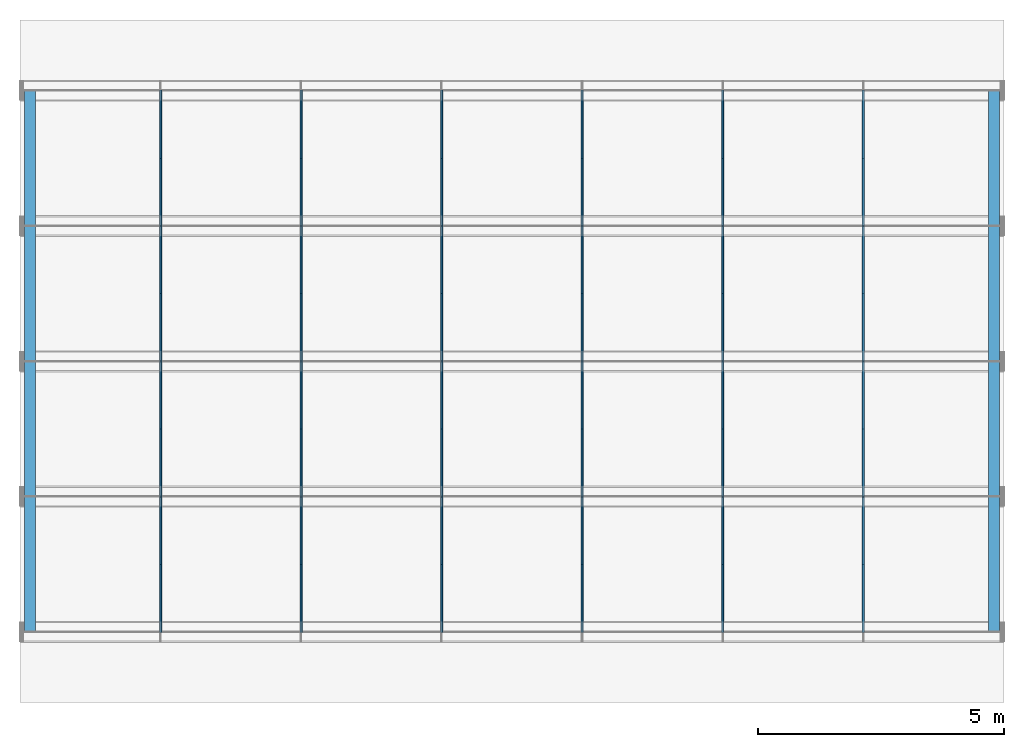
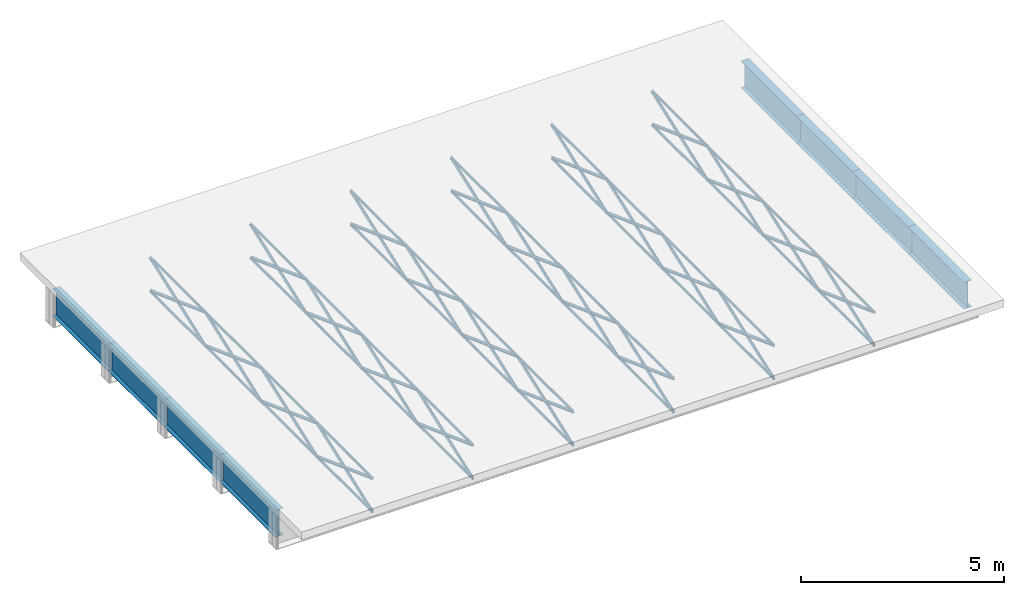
# One storey, part 1 of 12: 104 members.
"""IFC4 building model written with IfcOpenShell, lengths in metres."""

import ifcopenshell
import ifcopenshell.guid

model = None  # the IFC model being written
_history = None  # IfcOwnerHistory: only IFC2X3 demands one
_inside = {}  # id of a spatial element -> (the spatial element, [elements in it])
_under = {}  # id of a project, library or spatial element -> (it, [spatial elements below it])
_declared = {}  # id of a project -> (the project, [libraries it declares])
_typed = {}  # id of a type object -> (the type object, [elements of that type])
_made_of = {}  # id of a material, layer set ... -> (it, [elements and type objects made of it])


def new_model(schema):
    """Start an empty IFC model of exactly this schema.

    Asked for "IFC4X3", IfcOpenShell would pick the latest addendum, in which some entities
    have other attributes; the version numbers below select the first issue.
    IFC2X3 requires an IfcOwnerHistory on every rooted entity: one is made here for all.
    """
    global model, _history
    if schema == "IFC4X3":
        model = ifcopenshell.file(schema_version=(4, 3, 0, 0))
    else:
        model = ifcopenshell.file(schema=schema)
    _inside.clear()
    _under.clear()
    _declared.clear()
    _typed.clear()
    _made_of.clear()
    _history = None
    if model.schema == "IFC2X3":
        org = make("IfcOrganization", Name="unknown")
        user = make(
            "IfcPersonAndOrganization",
            ThePerson=make("IfcPerson", FamilyName="unknown"),
            TheOrganization=org,
        )
        app = make(
            "IfcApplication",
            ApplicationDeveloper=org,
            Version="unknown",
            ApplicationFullName="unknown",
            ApplicationIdentifier="unknown",
        )
        _history = make(
            "IfcOwnerHistory",
            OwningUser=user,
            OwningApplication=app,
            ChangeAction="ADDED",
            CreationDate=0,
        )
    return model


def make(cls, **values):
    """One entity of the class cls with the attributes given. An attribute that is None is left unset."""
    return model.create_entity(
        cls, **{name: value for name, value in values.items() if value is not None}
    )


def rooted(cls, **values):
    """An entity with a GlobalId (a new one), such as an element, a storey or a relation."""
    return make(cls, GlobalId=ifcopenshell.guid.new(), OwnerHistory=_history, **values)


def si_unit(unit_type, name, prefix=None):
    """IfcSIUnit, for example si_unit("LENGTHUNIT", "METRE", prefix="MILLI")."""
    return make("IfcSIUnit", UnitType=unit_type, Prefix=prefix, Name=name)


def assignment(units):
    """IfcUnitAssignment: the units of a project."""
    return None if units is None else make("IfcUnitAssignment", Units=units)


def point(xyz):
    """IfcCartesianPoint."""
    return None if xyz is None else make("IfcCartesianPoint", Coordinates=xyz)


def direction(xyz):
    """IfcDirection."""
    return None if xyz is None else make("IfcDirection", DirectionRatios=xyz)


def frame(location, z_axis=None, x_axis=None):
    """IfcAxis2Placement3D, a coordinate frame: its origin and axes. An axis left out is left unset."""
    return make(
        "IfcAxis2Placement3D",
        Location=point(location),
        Axis=direction(z_axis),
        RefDirection=direction(x_axis),
    )


def frame_2d(location, x_axis=None):
    """IfcAxis2Placement2D, a coordinate frame in the plane: its origin and x axis."""
    return make(
        "IfcAxis2Placement2D", Location=point(location), RefDirection=direction(x_axis)
    )


def origin():
    """The frame at (0, 0, 0) with its axes left unset."""
    return frame((0.0, 0.0, 0.0))


def origin_with_axes():
    """The frame at (0, 0, 0) with the z axis (0, 0, 1) and the x axis (1, 0, 0) written out."""
    return frame((0.0, 0.0, 0.0), z_axis=(0.0, 0.0, 1.0), x_axis=(1.0, 0.0, 0.0))


def origin_2d_with_axis():
    """The frame at (0, 0) in the plane with the x axis (1, 0) written out."""
    return frame_2d((0.0, 0.0), x_axis=(1.0, 0.0))


def place(relative_to, where):
    """IfcLocalPlacement: puts the frame where relative to a parent placement (None: the world)."""
    return make(
        "IfcLocalPlacement", PlacementRelTo=relative_to, RelativePlacement=where
    )


def context(
    kind, dimensions, precision=None, world=None, true_north=None, identifier=None
):
    """IfcGeometricRepresentationContext, for example the 3D "Model" context."""
    return make(
        "IfcGeometricRepresentationContext",
        ContextIdentifier=identifier,
        ContextType=kind,
        CoordinateSpaceDimension=dimensions,
        Precision=precision,
        WorldCoordinateSystem=world,
        TrueNorth=true_north,
    )


def subcontext(parent, identifier, kind, view, scale=None):
    """IfcGeometricRepresentationSubContext, for example "Body" below "Model"."""
    return make(
        "IfcGeometricRepresentationSubContext",
        ContextIdentifier=identifier,
        ContextType=kind,
        ParentContext=parent,
        TargetScale=scale,
        TargetView=view,
    )


def project(units=None, contexts=None):
    """IfcProject with its units and contexts."""
    return rooted(
        "IfcProject",
        Name="project",
        RepresentationContexts=contexts,
        UnitsInContext=assignment(units),
    )


def spatial(cls, under=None, at=None, **own):
    """A site, building, storey or space (cls), placed at a placement, below another one or the project."""
    s = rooted(cls, ObjectPlacement=at, **own)
    if under is not None:
        _under.setdefault(under.id(), (under, []))[1].append(s)
    return s


def profile(cls, at=None, kind="AREA", **sizes):
    """A parametric profile (cls). Its sizes go by their IFC names, for example OverallWidth=200.0."""
    return make(cls, ProfileType=kind, Position=at, **sizes)


def i_section(**sizes):
    """IfcIShapeProfileDef."""
    return profile("IfcIShapeProfileDef", **sizes)


def l_section(**sizes):
    """IfcLShapeProfileDef."""
    return profile("IfcLShapeProfileDef", **sizes)


def extrude(swept, where, along, depth):
    """IfcExtrudedAreaSolid: the profile swept, set in the frame where, extruded along a direction by depth."""
    return make(
        "IfcExtrudedAreaSolid",
        SweptArea=swept,
        Position=where,
        ExtrudedDirection=direction(along),
        Depth=depth,
    )


def shape(context_of_items, identifier, shape_type, items):
    """IfcShapeRepresentation: the items that make up one representation, for example the "Body"."""
    return make(
        "IfcShapeRepresentation",
        ContextOfItems=context_of_items,
        RepresentationIdentifier=identifier,
        RepresentationType=shape_type,
        Items=items,
    )


def made_of(thing, what):
    """Note that an element or type object is made of a material, layer set ...; save() writes the relation."""
    if what is not None:
        _made_of.setdefault(what.id(), (what, []))[1].append(thing)
    return thing


def element(
    cls,
    number,
    at=None,
    inside=None,
    cuts=None,
    type_object=None,
    material=None,
    context=None,
    identifier="Body",
    shape_type=None,
    held_by="IfcProductDefinitionShape",
    body=None,
    shapes=None,
    **own,
):
    """One element of the class cls, such as IfcWall. Its Tag is "e" and its number.

    at: its placement. inside: the storey or other place that contains it. cuts: it is an
    opening in that element (IfcRelVoidsElement). A single representation is given by context,
    identifier, shape_type and body (its items); several are given by shapes. held_by: the class
    of the entity that holds the representations. save() writes the other relations.
    """
    e = rooted(cls, Tag="e%d" % number, ObjectPlacement=at, **own)
    if body is not None:
        shapes = [shape(context, identifier, shape_type, body)]
    if shapes is not None:
        e.Representation = make(held_by, Representations=shapes)
    if inside is not None:
        _inside.setdefault(inside.id(), (inside, []))[1].append(e)
    if cuts is not None:
        rooted(
            "IfcRelVoidsElement", RelatingBuildingElement=cuts, RelatedOpeningElement=e
        )
    if type_object is not None:
        _typed.setdefault(type_object.id(), (type_object, []))[1].append(e)
    return made_of(e, material)


def aggregate(whole, parts):
    """IfcRelAggregates: a whole, such as a stair, and the parts it consists of."""
    return rooted("IfcRelAggregates", RelatingObject=whole, RelatedObjects=parts)


def save(model, path):
    """Write the relations noted so far, then the file.

    IfcRelAggregates (storeys below a building ...), IfcRelContainedInSpatialStructure (elements
    in a storey), IfcRelDefinesByType, IfcRelAssociatesMaterial and IfcRelDeclares: one each for
    every whole, place, type object, material and project.
    """
    for whole, parts in _under.values():
        aggregate(whole, parts)
    for where, things in _inside.values():
        rooted(
            "IfcRelContainedInSpatialStructure",
            RelatedElements=things,
            RelatingStructure=where,
        )
    for kind, things in _typed.values():
        rooted("IfcRelDefinesByType", RelatedObjects=things, RelatingType=kind)
    for what, things in _made_of.values():
        rooted("IfcRelAssociatesMaterial", RelatedObjects=things, RelatingMaterial=what)
    for by, libraries in _declared.values():
        rooted("IfcRelDeclares", RelatingContext=by, RelatedDefinitions=libraries)
    model.write(path)


model = new_model("IFC4")

# Units and contexts
model_context = context("Model", 3, precision=1e-05, world=origin())
body_context = subcontext(model_context, "Body", "Model", "MODEL_VIEW")
ifc_project = project(units=[si_unit("LENGTHUNIT", "METRE"), si_unit("AREAUNIT", "SQUARE_METRE"), si_unit("VOLUMEUNIT", "CUBIC_METRE"), si_unit("PLANEANGLEUNIT", "RADIAN")], contexts=[model_context])

# Site, building, storey
site_placement = place(None, origin_with_axes())
site = spatial("IfcSite", under=ifc_project, at=site_placement, Name="Default Site")
building_placement = place(site_placement, origin_with_axes())
building = spatial("IfcBuilding", under=site, at=building_placement, Name="Bridge Structure")
storey_placement = place(building_placement, origin_with_axes())
storey = spatial("IfcBuildingStorey", under=building, at=storey_placement, Name="Superstructure")

# Members
for number, where, z_axis, x_axis, name in (
    (1, (0.2, -5.5, 0.1015), (0.0, 1.0, 0.0), (-1.0, 0.0, 0.0), "End Diaphragm"),
    (2, (0.2, -2.75, 0.1015), (0.0, 1.0, 0.0), (-1.0, 0.0, 0.0), "End Diaphragm"),
    (3, (0.2, 0.0, 0.1015), (0.0, 1.0, 0.0), (-1.0, 0.0, 0.0), "End Diaphragm"),
    (4, (0.2, 2.75, 0.1015), (0.0, 1.0, 0.0), (-1.0, 0.0, 0.0), "End Diaphragm"),
):
    element("IfcMember", number, at=place(storey_placement, frame(where, z_axis=z_axis, x_axis=x_axis)), inside=storey, Name=name, context=body_context, shape_type="SweptSolid", body=[
        extrude(i_section(OverallWidth=0.225, OverallDepth=0.811, WebThickness=0.01, FlangeThickness=0.012, at=origin_2d_with_axis()), origin_with_axes(), (0.0, 0.0, 1.0), 2.75),
    ])
for number, where, z_axis, x_axis, name in (
    (5, (2.857142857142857, -5.5, 0.507), (0.0, 0.9382498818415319, -0.34595832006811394), (-1.0, 0.0, 0.0), "Diagonal Brace"),
    (6, (2.857142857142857, -5.5, -0.507), (0.0, 0.9382498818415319, 0.34595832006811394), (-1.0, 0.0, 0.0), "Diagonal Brace"),
):
    element("IfcMember", number, at=place(storey_placement, frame(where, z_axis=z_axis, x_axis=x_axis)), inside=storey, Name=name, context=body_context, shape_type="SweptSolid", body=[
        extrude(l_section(Depth=0.076, Width=0.05, Thickness=0.008, at=origin_2d_with_axis()), origin_with_axes(), (0.0, 0.0, 1.0), 2.93098891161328),
    ])
for number, where, z_axis, x_axis, name in (
    (7, (2.857142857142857, -5.5, -0.507), (0.0, 1.0, 0.0), (-1.0, 0.0, 0.0), "Bottom Chord"),
    (8, (2.857142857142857, -5.5, 0.507), (0.0, 1.0, 0.0), (-1.0, 0.0, 0.0), "Top Chord"),
):
    element("IfcMember", number, at=place(storey_placement, frame(where, z_axis=z_axis, x_axis=x_axis)), inside=storey, Name=name, context=body_context, shape_type="SweptSolid", body=[
        extrude(l_section(Depth=0.065, Width=0.04, Thickness=0.008, at=origin_2d_with_axis()), origin_with_axes(), (0.0, 0.0, 1.0), 2.75),
    ])
for number, where, z_axis, x_axis, name in (
    (9, (2.857142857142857, -2.75, 0.507), (0.0, 0.9382498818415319, -0.34595832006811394), (-1.0, 0.0, 0.0), "Diagonal Brace"),
    (10, (2.857142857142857, -2.75, -0.507), (0.0, 0.9382498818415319, 0.34595832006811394), (-1.0, 0.0, 0.0), "Diagonal Brace"),
):
    element("IfcMember", number, at=place(storey_placement, frame(where, z_axis=z_axis, x_axis=x_axis)), inside=storey, Name=name, context=body_context, shape_type="SweptSolid", body=[
        extrude(l_section(Depth=0.076, Width=0.05, Thickness=0.008, at=origin_2d_with_axis()), origin_with_axes(), (0.0, 0.0, 1.0), 2.93098891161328),
    ])
for number, where, z_axis, x_axis, name in (
    (11, (2.857142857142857, -2.75, -0.507), (0.0, 1.0, 0.0), (-1.0, 0.0, 0.0), "Bottom Chord"),
    (12, (2.857142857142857, -2.75, 0.507), (0.0, 1.0, 0.0), (-1.0, 0.0, 0.0), "Top Chord"),
):
    element("IfcMember", number, at=place(storey_placement, frame(where, z_axis=z_axis, x_axis=x_axis)), inside=storey, Name=name, context=body_context, shape_type="SweptSolid", body=[
        extrude(l_section(Depth=0.065, Width=0.04, Thickness=0.008, at=origin_2d_with_axis()), origin_with_axes(), (0.0, 0.0, 1.0), 2.75),
    ])
for number, where, z_axis, x_axis, name in (
    (13, (2.857142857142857, 0.0, 0.507), (0.0, 0.9382498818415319, -0.34595832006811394), (-1.0, 0.0, 0.0), "Diagonal Brace"),
    (14, (2.857142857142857, 0.0, -0.507), (0.0, 0.9382498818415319, 0.34595832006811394), (-1.0, 0.0, 0.0), "Diagonal Brace"),
):
    element("IfcMember", number, at=place(storey_placement, frame(where, z_axis=z_axis, x_axis=x_axis)), inside=storey, Name=name, context=body_context, shape_type="SweptSolid", body=[
        extrude(l_section(Depth=0.076, Width=0.05, Thickness=0.008, at=origin_2d_with_axis()), origin_with_axes(), (0.0, 0.0, 1.0), 2.93098891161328),
    ])
for number, where, z_axis, x_axis, name in (
    (15, (2.857142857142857, 0.0, -0.507), (0.0, 1.0, 0.0), (-1.0, 0.0, 0.0), "Bottom Chord"),
    (16, (2.857142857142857, 0.0, 0.507), (0.0, 1.0, 0.0), (-1.0, 0.0, 0.0), "Top Chord"),
):
    element("IfcMember", number, at=place(storey_placement, frame(where, z_axis=z_axis, x_axis=x_axis)), inside=storey, Name=name, context=body_context, shape_type="SweptSolid", body=[
        extrude(l_section(Depth=0.065, Width=0.04, Thickness=0.008, at=origin_2d_with_axis()), origin_with_axes(), (0.0, 0.0, 1.0), 2.75),
    ])
for number, where, z_axis, x_axis, name in (
    (17, (2.857142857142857, 2.75, 0.507), (0.0, 0.9382498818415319, -0.34595832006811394), (-1.0, 0.0, 0.0), "Diagonal Brace"),
    (18, (2.857142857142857, 2.75, -0.507), (0.0, 0.9382498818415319, 0.34595832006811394), (-1.0, 0.0, 0.0), "Diagonal Brace"),
):
    element("IfcMember", number, at=place(storey_placement, frame(where, z_axis=z_axis, x_axis=x_axis)), inside=storey, Name=name, context=body_context, shape_type="SweptSolid", body=[
        extrude(l_section(Depth=0.076, Width=0.05, Thickness=0.008, at=origin_2d_with_axis()), origin_with_axes(), (0.0, 0.0, 1.0), 2.93098891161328),
    ])
for number, where, z_axis, x_axis, name in (
    (19, (2.857142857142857, 2.75, -0.507), (0.0, 1.0, 0.0), (-1.0, 0.0, 0.0), "Bottom Chord"),
    (20, (2.857142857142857, 2.75, 0.507), (0.0, 1.0, 0.0), (-1.0, 0.0, 0.0), "Top Chord"),
):
    element("IfcMember", number, at=place(storey_placement, frame(where, z_axis=z_axis, x_axis=x_axis)), inside=storey, Name=name, context=body_context, shape_type="SweptSolid", body=[
        extrude(l_section(Depth=0.065, Width=0.04, Thickness=0.008, at=origin_2d_with_axis()), origin_with_axes(), (0.0, 0.0, 1.0), 2.75),
    ])
for number, where, z_axis, x_axis, name in (
    (21, (5.714285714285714, -5.5, 0.507), (0.0, 0.9382498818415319, -0.34595832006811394), (-1.0, 0.0, 0.0), "Diagonal Brace"),
    (22, (5.714285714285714, -5.5, -0.507), (0.0, 0.9382498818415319, 0.34595832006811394), (-1.0, 0.0, 0.0), "Diagonal Brace"),
):
    element("IfcMember", number, at=place(storey_placement, frame(where, z_axis=z_axis, x_axis=x_axis)), inside=storey, Name=name, context=body_context, shape_type="SweptSolid", body=[
        extrude(l_section(Depth=0.076, Width=0.05, Thickness=0.008, at=origin_2d_with_axis()), origin_with_axes(), (0.0, 0.0, 1.0), 2.93098891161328),
    ])
for number, where, z_axis, x_axis, name in (
    (23, (5.714285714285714, -5.5, -0.507), (0.0, 1.0, 0.0), (-1.0, 0.0, 0.0), "Bottom Chord"),
    (24, (5.714285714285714, -5.5, 0.507), (0.0, 1.0, 0.0), (-1.0, 0.0, 0.0), "Top Chord"),
):
    element("IfcMember", number, at=place(storey_placement, frame(where, z_axis=z_axis, x_axis=x_axis)), inside=storey, Name=name, context=body_context, shape_type="SweptSolid", body=[
        extrude(l_section(Depth=0.065, Width=0.04, Thickness=0.008, at=origin_2d_with_axis()), origin_with_axes(), (0.0, 0.0, 1.0), 2.75),
    ])
for number, where, z_axis, x_axis, name in (
    (25, (5.714285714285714, -2.75, 0.507), (0.0, 0.9382498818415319, -0.34595832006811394), (-1.0, 0.0, 0.0), "Diagonal Brace"),
    (26, (5.714285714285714, -2.75, -0.507), (0.0, 0.9382498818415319, 0.34595832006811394), (-1.0, 0.0, 0.0), "Diagonal Brace"),
):
    element("IfcMember", number, at=place(storey_placement, frame(where, z_axis=z_axis, x_axis=x_axis)), inside=storey, Name=name, context=body_context, shape_type="SweptSolid", body=[
        extrude(l_section(Depth=0.076, Width=0.05, Thickness=0.008, at=origin_2d_with_axis()), origin_with_axes(), (0.0, 0.0, 1.0), 2.93098891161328),
    ])
for number, where, z_axis, x_axis, name in (
    (27, (5.714285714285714, -2.75, -0.507), (0.0, 1.0, 0.0), (-1.0, 0.0, 0.0), "Bottom Chord"),
    (28, (5.714285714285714, -2.75, 0.507), (0.0, 1.0, 0.0), (-1.0, 0.0, 0.0), "Top Chord"),
):
    element("IfcMember", number, at=place(storey_placement, frame(where, z_axis=z_axis, x_axis=x_axis)), inside=storey, Name=name, context=body_context, shape_type="SweptSolid", body=[
        extrude(l_section(Depth=0.065, Width=0.04, Thickness=0.008, at=origin_2d_with_axis()), origin_with_axes(), (0.0, 0.0, 1.0), 2.75),
    ])
for number, where, z_axis, x_axis, name in (
    (29, (5.714285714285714, 0.0, 0.507), (0.0, 0.9382498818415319, -0.34595832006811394), (-1.0, 0.0, 0.0), "Diagonal Brace"),
    (30, (5.714285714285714, 0.0, -0.507), (0.0, 0.9382498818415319, 0.34595832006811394), (-1.0, 0.0, 0.0), "Diagonal Brace"),
):
    element("IfcMember", number, at=place(storey_placement, frame(where, z_axis=z_axis, x_axis=x_axis)), inside=storey, Name=name, context=body_context, shape_type="SweptSolid", body=[
        extrude(l_section(Depth=0.076, Width=0.05, Thickness=0.008, at=origin_2d_with_axis()), origin_with_axes(), (0.0, 0.0, 1.0), 2.93098891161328),
    ])
for number, where, z_axis, x_axis, name in (
    (31, (5.714285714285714, 0.0, -0.507), (0.0, 1.0, 0.0), (-1.0, 0.0, 0.0), "Bottom Chord"),
    (32, (5.714285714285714, 0.0, 0.507), (0.0, 1.0, 0.0), (-1.0, 0.0, 0.0), "Top Chord"),
):
    element("IfcMember", number, at=place(storey_placement, frame(where, z_axis=z_axis, x_axis=x_axis)), inside=storey, Name=name, context=body_context, shape_type="SweptSolid", body=[
        extrude(l_section(Depth=0.065, Width=0.04, Thickness=0.008, at=origin_2d_with_axis()), origin_with_axes(), (0.0, 0.0, 1.0), 2.75),
    ])
for number, where, z_axis, x_axis, name in (
    (33, (5.714285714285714, 2.75, 0.507), (0.0, 0.9382498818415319, -0.34595832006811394), (-1.0, 0.0, 0.0), "Diagonal Brace"),
    (34, (5.714285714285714, 2.75, -0.507), (0.0, 0.9382498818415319, 0.34595832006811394), (-1.0, 0.0, 0.0), "Diagonal Brace"),
):
    element("IfcMember", number, at=place(storey_placement, frame(where, z_axis=z_axis, x_axis=x_axis)), inside=storey, Name=name, context=body_context, shape_type="SweptSolid", body=[
        extrude(l_section(Depth=0.076, Width=0.05, Thickness=0.008, at=origin_2d_with_axis()), origin_with_axes(), (0.0, 0.0, 1.0), 2.93098891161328),
    ])
for number, where, z_axis, x_axis, name in (
    (35, (5.714285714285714, 2.75, -0.507), (0.0, 1.0, 0.0), (-1.0, 0.0, 0.0), "Bottom Chord"),
    (36, (5.714285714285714, 2.75, 0.507), (0.0, 1.0, 0.0), (-1.0, 0.0, 0.0), "Top Chord"),
):
    element("IfcMember", number, at=place(storey_placement, frame(where, z_axis=z_axis, x_axis=x_axis)), inside=storey, Name=name, context=body_context, shape_type="SweptSolid", body=[
        extrude(l_section(Depth=0.065, Width=0.04, Thickness=0.008, at=origin_2d_with_axis()), origin_with_axes(), (0.0, 0.0, 1.0), 2.75),
    ])
for number, where, z_axis, x_axis, name in (
    (37, (8.571428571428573, -5.5, 0.507), (0.0, 0.9382498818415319, -0.34595832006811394), (-1.0, 0.0, 0.0), "Diagonal Brace"),
    (38, (8.571428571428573, -5.5, -0.507), (0.0, 0.9382498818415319, 0.34595832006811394), (-1.0, 0.0, 0.0), "Diagonal Brace"),
):
    element("IfcMember", number, at=place(storey_placement, frame(where, z_axis=z_axis, x_axis=x_axis)), inside=storey, Name=name, context=body_context, shape_type="SweptSolid", body=[
        extrude(l_section(Depth=0.076, Width=0.05, Thickness=0.008, at=origin_2d_with_axis()), origin_with_axes(), (0.0, 0.0, 1.0), 2.93098891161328),
    ])
for number, where, z_axis, x_axis, name in (
    (39, (8.571428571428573, -5.5, -0.507), (0.0, 1.0, 0.0), (-1.0, 0.0, 0.0), "Bottom Chord"),
    (40, (8.571428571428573, -5.5, 0.507), (0.0, 1.0, 0.0), (-1.0, 0.0, 0.0), "Top Chord"),
):
    element("IfcMember", number, at=place(storey_placement, frame(where, z_axis=z_axis, x_axis=x_axis)), inside=storey, Name=name, context=body_context, shape_type="SweptSolid", body=[
        extrude(l_section(Depth=0.065, Width=0.04, Thickness=0.008, at=origin_2d_with_axis()), origin_with_axes(), (0.0, 0.0, 1.0), 2.75),
    ])
for number, where, z_axis, x_axis, name in (
    (41, (8.571428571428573, -2.75, 0.507), (0.0, 0.9382498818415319, -0.34595832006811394), (-1.0, 0.0, 0.0), "Diagonal Brace"),
    (42, (8.571428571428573, -2.75, -0.507), (0.0, 0.9382498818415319, 0.34595832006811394), (-1.0, 0.0, 0.0), "Diagonal Brace"),
):
    element("IfcMember", number, at=place(storey_placement, frame(where, z_axis=z_axis, x_axis=x_axis)), inside=storey, Name=name, context=body_context, shape_type="SweptSolid", body=[
        extrude(l_section(Depth=0.076, Width=0.05, Thickness=0.008, at=origin_2d_with_axis()), origin_with_axes(), (0.0, 0.0, 1.0), 2.93098891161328),
    ])
for number, where, z_axis, x_axis, name in (
    (43, (8.571428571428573, -2.75, -0.507), (0.0, 1.0, 0.0), (-1.0, 0.0, 0.0), "Bottom Chord"),
    (44, (8.571428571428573, -2.75, 0.507), (0.0, 1.0, 0.0), (-1.0, 0.0, 0.0), "Top Chord"),
):
    element("IfcMember", number, at=place(storey_placement, frame(where, z_axis=z_axis, x_axis=x_axis)), inside=storey, Name=name, context=body_context, shape_type="SweptSolid", body=[
        extrude(l_section(Depth=0.065, Width=0.04, Thickness=0.008, at=origin_2d_with_axis()), origin_with_axes(), (0.0, 0.0, 1.0), 2.75),
    ])
for number, where, z_axis, x_axis, name in (
    (45, (8.571428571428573, 0.0, 0.507), (0.0, 0.9382498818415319, -0.34595832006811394), (-1.0, 0.0, 0.0), "Diagonal Brace"),
    (46, (8.571428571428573, 0.0, -0.507), (0.0, 0.9382498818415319, 0.34595832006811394), (-1.0, 0.0, 0.0), "Diagonal Brace"),
):
    element("IfcMember", number, at=place(storey_placement, frame(where, z_axis=z_axis, x_axis=x_axis)), inside=storey, Name=name, context=body_context, shape_type="SweptSolid", body=[
        extrude(l_section(Depth=0.076, Width=0.05, Thickness=0.008, at=origin_2d_with_axis()), origin_with_axes(), (0.0, 0.0, 1.0), 2.93098891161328),
    ])
for number, where, z_axis, x_axis, name in (
    (47, (8.571428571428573, 0.0, -0.507), (0.0, 1.0, 0.0), (-1.0, 0.0, 0.0), "Bottom Chord"),
    (48, (8.571428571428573, 0.0, 0.507), (0.0, 1.0, 0.0), (-1.0, 0.0, 0.0), "Top Chord"),
):
    element("IfcMember", number, at=place(storey_placement, frame(where, z_axis=z_axis, x_axis=x_axis)), inside=storey, Name=name, context=body_context, shape_type="SweptSolid", body=[
        extrude(l_section(Depth=0.065, Width=0.04, Thickness=0.008, at=origin_2d_with_axis()), origin_with_axes(), (0.0, 0.0, 1.0), 2.75),
    ])
for number, where, z_axis, x_axis, name in (
    (49, (8.571428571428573, 2.75, 0.507), (0.0, 0.9382498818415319, -0.34595832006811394), (-1.0, 0.0, 0.0), "Diagonal Brace"),
    (50, (8.571428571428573, 2.75, -0.507), (0.0, 0.9382498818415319, 0.34595832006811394), (-1.0, 0.0, 0.0), "Diagonal Brace"),
):
    element("IfcMember", number, at=place(storey_placement, frame(where, z_axis=z_axis, x_axis=x_axis)), inside=storey, Name=name, context=body_context, shape_type="SweptSolid", body=[
        extrude(l_section(Depth=0.076, Width=0.05, Thickness=0.008, at=origin_2d_with_axis()), origin_with_axes(), (0.0, 0.0, 1.0), 2.93098891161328),
    ])
for number, where, z_axis, x_axis, name in (
    (51, (8.571428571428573, 2.75, -0.507), (0.0, 1.0, 0.0), (-1.0, 0.0, 0.0), "Bottom Chord"),
    (52, (8.571428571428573, 2.75, 0.507), (0.0, 1.0, 0.0), (-1.0, 0.0, 0.0), "Top Chord"),
):
    element("IfcMember", number, at=place(storey_placement, frame(where, z_axis=z_axis, x_axis=x_axis)), inside=storey, Name=name, context=body_context, shape_type="SweptSolid", body=[
        extrude(l_section(Depth=0.065, Width=0.04, Thickness=0.008, at=origin_2d_with_axis()), origin_with_axes(), (0.0, 0.0, 1.0), 2.75),
    ])
for number, where, z_axis, x_axis, name in (
    (53, (11.428571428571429, -5.5, 0.507), (0.0, 0.9382498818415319, -0.34595832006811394), (-1.0, 0.0, 0.0), "Diagonal Brace"),
    (54, (11.428571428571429, -5.5, -0.507), (0.0, 0.9382498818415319, 0.34595832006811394), (-1.0, 0.0, 0.0), "Diagonal Brace"),
):
    element("IfcMember", number, at=place(storey_placement, frame(where, z_axis=z_axis, x_axis=x_axis)), inside=storey, Name=name, context=body_context, shape_type="SweptSolid", body=[
        extrude(l_section(Depth=0.076, Width=0.05, Thickness=0.008, at=origin_2d_with_axis()), origin_with_axes(), (0.0, 0.0, 1.0), 2.93098891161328),
    ])
for number, where, z_axis, x_axis, name in (
    (55, (11.428571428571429, -5.5, -0.507), (0.0, 1.0, 0.0), (-1.0, 0.0, 0.0), "Bottom Chord"),
    (56, (11.428571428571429, -5.5, 0.507), (0.0, 1.0, 0.0), (-1.0, 0.0, 0.0), "Top Chord"),
):
    element("IfcMember", number, at=place(storey_placement, frame(where, z_axis=z_axis, x_axis=x_axis)), inside=storey, Name=name, context=body_context, shape_type="SweptSolid", body=[
        extrude(l_section(Depth=0.065, Width=0.04, Thickness=0.008, at=origin_2d_with_axis()), origin_with_axes(), (0.0, 0.0, 1.0), 2.75),
    ])
for number, where, z_axis, x_axis, name in (
    (57, (11.428571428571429, -2.75, 0.507), (0.0, 0.9382498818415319, -0.34595832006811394), (-1.0, 0.0, 0.0), "Diagonal Brace"),
    (58, (11.428571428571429, -2.75, -0.507), (0.0, 0.9382498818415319, 0.34595832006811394), (-1.0, 0.0, 0.0), "Diagonal Brace"),
):
    element("IfcMember", number, at=place(storey_placement, frame(where, z_axis=z_axis, x_axis=x_axis)), inside=storey, Name=name, context=body_context, shape_type="SweptSolid", body=[
        extrude(l_section(Depth=0.076, Width=0.05, Thickness=0.008, at=origin_2d_with_axis()), origin_with_axes(), (0.0, 0.0, 1.0), 2.93098891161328),
    ])
for number, where, z_axis, x_axis, name in (
    (59, (11.428571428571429, -2.75, -0.507), (0.0, 1.0, 0.0), (-1.0, 0.0, 0.0), "Bottom Chord"),
    (60, (11.428571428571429, -2.75, 0.507), (0.0, 1.0, 0.0), (-1.0, 0.0, 0.0), "Top Chord"),
):
    element("IfcMember", number, at=place(storey_placement, frame(where, z_axis=z_axis, x_axis=x_axis)), inside=storey, Name=name, context=body_context, shape_type="SweptSolid", body=[
        extrude(l_section(Depth=0.065, Width=0.04, Thickness=0.008, at=origin_2d_with_axis()), origin_with_axes(), (0.0, 0.0, 1.0), 2.75),
    ])
for number, where, z_axis, x_axis, name in (
    (61, (11.428571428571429, 0.0, 0.507), (0.0, 0.9382498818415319, -0.34595832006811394), (-1.0, 0.0, 0.0), "Diagonal Brace"),
    (62, (11.428571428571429, 0.0, -0.507), (0.0, 0.9382498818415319, 0.34595832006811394), (-1.0, 0.0, 0.0), "Diagonal Brace"),
):
    element("IfcMember", number, at=place(storey_placement, frame(where, z_axis=z_axis, x_axis=x_axis)), inside=storey, Name=name, context=body_context, shape_type="SweptSolid", body=[
        extrude(l_section(Depth=0.076, Width=0.05, Thickness=0.008, at=origin_2d_with_axis()), origin_with_axes(), (0.0, 0.0, 1.0), 2.93098891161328),
    ])
for number, where, z_axis, x_axis, name in (
    (63, (11.428571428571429, 0.0, -0.507), (0.0, 1.0, 0.0), (-1.0, 0.0, 0.0), "Bottom Chord"),
    (64, (11.428571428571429, 0.0, 0.507), (0.0, 1.0, 0.0), (-1.0, 0.0, 0.0), "Top Chord"),
):
    element("IfcMember", number, at=place(storey_placement, frame(where, z_axis=z_axis, x_axis=x_axis)), inside=storey, Name=name, context=body_context, shape_type="SweptSolid", body=[
        extrude(l_section(Depth=0.065, Width=0.04, Thickness=0.008, at=origin_2d_with_axis()), origin_with_axes(), (0.0, 0.0, 1.0), 2.75),
    ])
for number, where, z_axis, x_axis, name in (
    (65, (11.428571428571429, 2.75, 0.507), (0.0, 0.9382498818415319, -0.34595832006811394), (-1.0, 0.0, 0.0), "Diagonal Brace"),
    (66, (11.428571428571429, 2.75, -0.507), (0.0, 0.9382498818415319, 0.34595832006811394), (-1.0, 0.0, 0.0), "Diagonal Brace"),
):
    element("IfcMember", number, at=place(storey_placement, frame(where, z_axis=z_axis, x_axis=x_axis)), inside=storey, Name=name, context=body_context, shape_type="SweptSolid", body=[
        extrude(l_section(Depth=0.076, Width=0.05, Thickness=0.008, at=origin_2d_with_axis()), origin_with_axes(), (0.0, 0.0, 1.0), 2.93098891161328),
    ])
for number, where, z_axis, x_axis, name in (
    (67, (11.428571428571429, 2.75, -0.507), (0.0, 1.0, 0.0), (-1.0, 0.0, 0.0), "Bottom Chord"),
    (68, (11.428571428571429, 2.75, 0.507), (0.0, 1.0, 0.0), (-1.0, 0.0, 0.0), "Top Chord"),
):
    element("IfcMember", number, at=place(storey_placement, frame(where, z_axis=z_axis, x_axis=x_axis)), inside=storey, Name=name, context=body_context, shape_type="SweptSolid", body=[
        extrude(l_section(Depth=0.065, Width=0.04, Thickness=0.008, at=origin_2d_with_axis()), origin_with_axes(), (0.0, 0.0, 1.0), 2.75),
    ])
for number, where, z_axis, x_axis, name in (
    (69, (14.285714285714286, -5.5, 0.507), (0.0, 0.9382498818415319, -0.34595832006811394), (-1.0, 0.0, 0.0), "Diagonal Brace"),
    (70, (14.285714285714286, -5.5, -0.507), (0.0, 0.9382498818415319, 0.34595832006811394), (-1.0, 0.0, 0.0), "Diagonal Brace"),
):
    element("IfcMember", number, at=place(storey_placement, frame(where, z_axis=z_axis, x_axis=x_axis)), inside=storey, Name=name, context=body_context, shape_type="SweptSolid", body=[
        extrude(l_section(Depth=0.076, Width=0.05, Thickness=0.008, at=origin_2d_with_axis()), origin_with_axes(), (0.0, 0.0, 1.0), 2.93098891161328),
    ])
for number, where, z_axis, x_axis, name in (
    (71, (14.285714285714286, -5.5, -0.507), (0.0, 1.0, 0.0), (-1.0, 0.0, 0.0), "Bottom Chord"),
    (72, (14.285714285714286, -5.5, 0.507), (0.0, 1.0, 0.0), (-1.0, 0.0, 0.0), "Top Chord"),
):
    element("IfcMember", number, at=place(storey_placement, frame(where, z_axis=z_axis, x_axis=x_axis)), inside=storey, Name=name, context=body_context, shape_type="SweptSolid", body=[
        extrude(l_section(Depth=0.065, Width=0.04, Thickness=0.008, at=origin_2d_with_axis()), origin_with_axes(), (0.0, 0.0, 1.0), 2.75),
    ])
for number, where, z_axis, x_axis, name in (
    (73, (14.285714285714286, -2.75, 0.507), (0.0, 0.9382498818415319, -0.34595832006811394), (-1.0, 0.0, 0.0), "Diagonal Brace"),
    (74, (14.285714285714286, -2.75, -0.507), (0.0, 0.9382498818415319, 0.34595832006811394), (-1.0, 0.0, 0.0), "Diagonal Brace"),
):
    element("IfcMember", number, at=place(storey_placement, frame(where, z_axis=z_axis, x_axis=x_axis)), inside=storey, Name=name, context=body_context, shape_type="SweptSolid", body=[
        extrude(l_section(Depth=0.076, Width=0.05, Thickness=0.008, at=origin_2d_with_axis()), origin_with_axes(), (0.0, 0.0, 1.0), 2.93098891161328),
    ])
for number, where, z_axis, x_axis, name in (
    (75, (14.285714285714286, -2.75, -0.507), (0.0, 1.0, 0.0), (-1.0, 0.0, 0.0), "Bottom Chord"),
    (76, (14.285714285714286, -2.75, 0.507), (0.0, 1.0, 0.0), (-1.0, 0.0, 0.0), "Top Chord"),
):
    element("IfcMember", number, at=place(storey_placement, frame(where, z_axis=z_axis, x_axis=x_axis)), inside=storey, Name=name, context=body_context, shape_type="SweptSolid", body=[
        extrude(l_section(Depth=0.065, Width=0.04, Thickness=0.008, at=origin_2d_with_axis()), origin_with_axes(), (0.0, 0.0, 1.0), 2.75),
    ])
for number, where, z_axis, x_axis, name in (
    (77, (14.285714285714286, 0.0, 0.507), (0.0, 0.9382498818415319, -0.34595832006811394), (-1.0, 0.0, 0.0), "Diagonal Brace"),
    (78, (14.285714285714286, 0.0, -0.507), (0.0, 0.9382498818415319, 0.34595832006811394), (-1.0, 0.0, 0.0), "Diagonal Brace"),
):
    element("IfcMember", number, at=place(storey_placement, frame(where, z_axis=z_axis, x_axis=x_axis)), inside=storey, Name=name, context=body_context, shape_type="SweptSolid", body=[
        extrude(l_section(Depth=0.076, Width=0.05, Thickness=0.008, at=origin_2d_with_axis()), origin_with_axes(), (0.0, 0.0, 1.0), 2.93098891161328),
    ])
for number, where, z_axis, x_axis, name in (
    (79, (14.285714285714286, 0.0, -0.507), (0.0, 1.0, 0.0), (-1.0, 0.0, 0.0), "Bottom Chord"),
    (80, (14.285714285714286, 0.0, 0.507), (0.0, 1.0, 0.0), (-1.0, 0.0, 0.0), "Top Chord"),
):
    element("IfcMember", number, at=place(storey_placement, frame(where, z_axis=z_axis, x_axis=x_axis)), inside=storey, Name=name, context=body_context, shape_type="SweptSolid", body=[
        extrude(l_section(Depth=0.065, Width=0.04, Thickness=0.008, at=origin_2d_with_axis()), origin_with_axes(), (0.0, 0.0, 1.0), 2.75),
    ])
for number, where, z_axis, x_axis, name in (
    (81, (14.285714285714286, 2.75, 0.507), (0.0, 0.9382498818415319, -0.34595832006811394), (-1.0, 0.0, 0.0), "Diagonal Brace"),
    (82, (14.285714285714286, 2.75, -0.507), (0.0, 0.9382498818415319, 0.34595832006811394), (-1.0, 0.0, 0.0), "Diagonal Brace"),
):
    element("IfcMember", number, at=place(storey_placement, frame(where, z_axis=z_axis, x_axis=x_axis)), inside=storey, Name=name, context=body_context, shape_type="SweptSolid", body=[
        extrude(l_section(Depth=0.076, Width=0.05, Thickness=0.008, at=origin_2d_with_axis()), origin_with_axes(), (0.0, 0.0, 1.0), 2.93098891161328),
    ])
for number, where, z_axis, x_axis, name in (
    (83, (14.285714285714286, 2.75, -0.507), (0.0, 1.0, 0.0), (-1.0, 0.0, 0.0), "Bottom Chord"),
    (84, (14.285714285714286, 2.75, 0.507), (0.0, 1.0, 0.0), (-1.0, 0.0, 0.0), "Top Chord"),
):
    element("IfcMember", number, at=place(storey_placement, frame(where, z_axis=z_axis, x_axis=x_axis)), inside=storey, Name=name, context=body_context, shape_type="SweptSolid", body=[
        extrude(l_section(Depth=0.065, Width=0.04, Thickness=0.008, at=origin_2d_with_axis()), origin_with_axes(), (0.0, 0.0, 1.0), 2.75),
    ])
for number, where, z_axis, x_axis, name in (
    (85, (17.142857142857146, -5.5, 0.507), (0.0, 0.9382498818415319, -0.34595832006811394), (-1.0, 0.0, 0.0), "Diagonal Brace"),
    (86, (17.142857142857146, -5.5, -0.507), (0.0, 0.9382498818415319, 0.34595832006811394), (-1.0, 0.0, 0.0), "Diagonal Brace"),
):
    element("IfcMember", number, at=place(storey_placement, frame(where, z_axis=z_axis, x_axis=x_axis)), inside=storey, Name=name, context=body_context, shape_type="SweptSolid", body=[
        extrude(l_section(Depth=0.076, Width=0.05, Thickness=0.008, at=origin_2d_with_axis()), origin_with_axes(), (0.0, 0.0, 1.0), 2.93098891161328),
    ])
for number, where, z_axis, x_axis, name in (
    (87, (17.142857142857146, -5.5, -0.507), (0.0, 1.0, 0.0), (-1.0, 0.0, 0.0), "Bottom Chord"),
    (88, (17.142857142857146, -5.5, 0.507), (0.0, 1.0, 0.0), (-1.0, 0.0, 0.0), "Top Chord"),
):
    element("IfcMember", number, at=place(storey_placement, frame(where, z_axis=z_axis, x_axis=x_axis)), inside=storey, Name=name, context=body_context, shape_type="SweptSolid", body=[
        extrude(l_section(Depth=0.065, Width=0.04, Thickness=0.008, at=origin_2d_with_axis()), origin_with_axes(), (0.0, 0.0, 1.0), 2.75),
    ])
for number, where, z_axis, x_axis, name in (
    (89, (17.142857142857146, -2.75, 0.507), (0.0, 0.9382498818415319, -0.34595832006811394), (-1.0, 0.0, 0.0), "Diagonal Brace"),
    (90, (17.142857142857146, -2.75, -0.507), (0.0, 0.9382498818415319, 0.34595832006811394), (-1.0, 0.0, 0.0), "Diagonal Brace"),
):
    element("IfcMember", number, at=place(storey_placement, frame(where, z_axis=z_axis, x_axis=x_axis)), inside=storey, Name=name, context=body_context, shape_type="SweptSolid", body=[
        extrude(l_section(Depth=0.076, Width=0.05, Thickness=0.008, at=origin_2d_with_axis()), origin_with_axes(), (0.0, 0.0, 1.0), 2.93098891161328),
    ])
for number, where, z_axis, x_axis, name in (
    (91, (17.142857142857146, -2.75, -0.507), (0.0, 1.0, 0.0), (-1.0, 0.0, 0.0), "Bottom Chord"),
    (92, (17.142857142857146, -2.75, 0.507), (0.0, 1.0, 0.0), (-1.0, 0.0, 0.0), "Top Chord"),
):
    element("IfcMember", number, at=place(storey_placement, frame(where, z_axis=z_axis, x_axis=x_axis)), inside=storey, Name=name, context=body_context, shape_type="SweptSolid", body=[
        extrude(l_section(Depth=0.065, Width=0.04, Thickness=0.008, at=origin_2d_with_axis()), origin_with_axes(), (0.0, 0.0, 1.0), 2.75),
    ])
for number, where, z_axis, x_axis, name in (
    (93, (17.142857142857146, 0.0, 0.507), (0.0, 0.9382498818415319, -0.34595832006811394), (-1.0, 0.0, 0.0), "Diagonal Brace"),
    (94, (17.142857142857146, 0.0, -0.507), (0.0, 0.9382498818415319, 0.34595832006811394), (-1.0, 0.0, 0.0), "Diagonal Brace"),
):
    element("IfcMember", number, at=place(storey_placement, frame(where, z_axis=z_axis, x_axis=x_axis)), inside=storey, Name=name, context=body_context, shape_type="SweptSolid", body=[
        extrude(l_section(Depth=0.076, Width=0.05, Thickness=0.008, at=origin_2d_with_axis()), origin_with_axes(), (0.0, 0.0, 1.0), 2.93098891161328),
    ])
for number, where, z_axis, x_axis, name in (
    (95, (17.142857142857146, 0.0, -0.507), (0.0, 1.0, 0.0), (-1.0, 0.0, 0.0), "Bottom Chord"),
    (96, (17.142857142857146, 0.0, 0.507), (0.0, 1.0, 0.0), (-1.0, 0.0, 0.0), "Top Chord"),
):
    element("IfcMember", number, at=place(storey_placement, frame(where, z_axis=z_axis, x_axis=x_axis)), inside=storey, Name=name, context=body_context, shape_type="SweptSolid", body=[
        extrude(l_section(Depth=0.065, Width=0.04, Thickness=0.008, at=origin_2d_with_axis()), origin_with_axes(), (0.0, 0.0, 1.0), 2.75),
    ])
for number, where, z_axis, x_axis, name in (
    (97, (17.142857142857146, 2.75, 0.507), (0.0, 0.9382498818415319, -0.34595832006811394), (-1.0, 0.0, 0.0), "Diagonal Brace"),
    (98, (17.142857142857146, 2.75, -0.507), (0.0, 0.9382498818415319, 0.34595832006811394), (-1.0, 0.0, 0.0), "Diagonal Brace"),
):
    element("IfcMember", number, at=place(storey_placement, frame(where, z_axis=z_axis, x_axis=x_axis)), inside=storey, Name=name, context=body_context, shape_type="SweptSolid", body=[
        extrude(l_section(Depth=0.076, Width=0.05, Thickness=0.008, at=origin_2d_with_axis()), origin_with_axes(), (0.0, 0.0, 1.0), 2.93098891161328),
    ])
for number, where, z_axis, x_axis, name in (
    (99, (17.142857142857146, 2.75, -0.507), (0.0, 1.0, 0.0), (-1.0, 0.0, 0.0), "Bottom Chord"),
    (100, (17.142857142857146, 2.75, 0.507), (0.0, 1.0, 0.0), (-1.0, 0.0, 0.0), "Top Chord"),
):
    element("IfcMember", number, at=place(storey_placement, frame(where, z_axis=z_axis, x_axis=x_axis)), inside=storey, Name=name, context=body_context, shape_type="SweptSolid", body=[
        extrude(l_section(Depth=0.065, Width=0.04, Thickness=0.008, at=origin_2d_with_axis()), origin_with_axes(), (0.0, 0.0, 1.0), 2.75),
    ])
for number, where, z_axis, x_axis, name in (
    (101, (19.8, -5.5, 0.1015), (0.0, 1.0, 0.0), (-1.0, 0.0, 0.0), "End Diaphragm"),
    (102, (19.8, -2.75, 0.1015), (0.0, 1.0, 0.0), (-1.0, 0.0, 0.0), "End Diaphragm"),
    (103, (19.8, 0.0, 0.1015), (0.0, 1.0, 0.0), (-1.0, 0.0, 0.0), "End Diaphragm"),
    (104, (19.8, 2.75, 0.1015), (0.0, 1.0, 0.0), (-1.0, 0.0, 0.0), "End Diaphragm"),
):
    element("IfcMember", number, at=place(storey_placement, frame(where, z_axis=z_axis, x_axis=x_axis)), inside=storey, Name=name, context=body_context, shape_type="SweptSolid", body=[
        extrude(i_section(OverallWidth=0.225, OverallDepth=0.811, WebThickness=0.01, FlangeThickness=0.012, at=origin_2d_with_axis()), origin_with_axes(), (0.0, 0.0, 1.0), 2.75),
    ])

save(model, "model.ifc")
